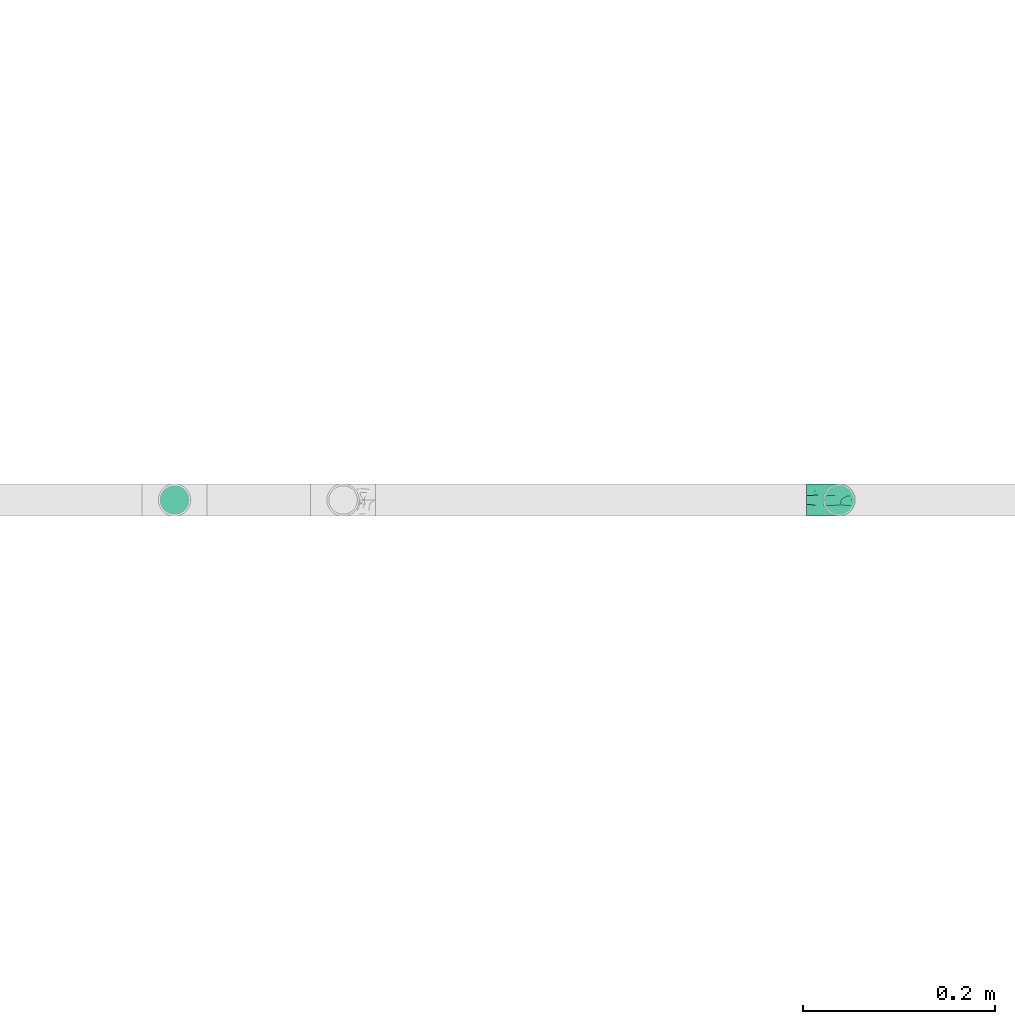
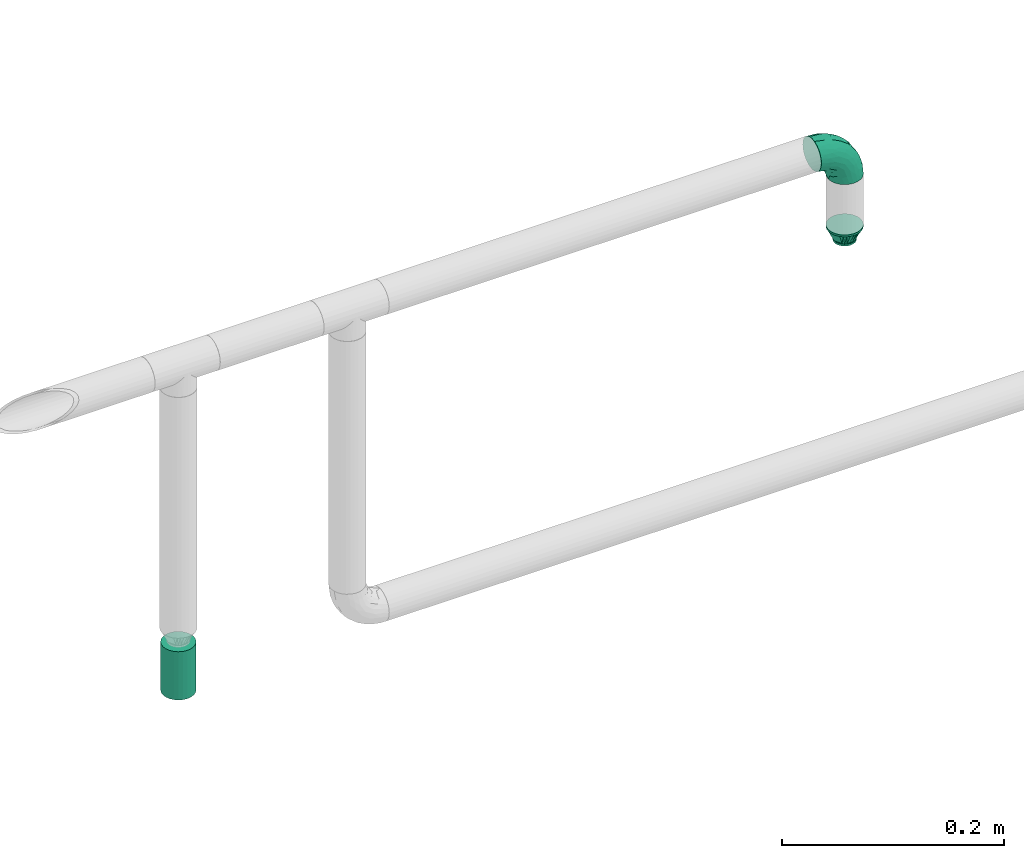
# One storey, part 26 of 45: 2 flow fittings, 1 flow terminal.
"""IFC2X3 building model written with IfcOpenShell, lengths in millimetres."""

from ifc_helpers import new_model, entity, si_unit, converted_unit, derived_unit, direction, frame, origin_with_axes, place, context, subcontext, project, spatial, open_shell, surface_model, source, transform, mapped, type_object, element, save


model = new_model("IFC2X3")

# Units and contexts
model_context = context("Model", 3, precision=0.01, world=frame((0.0, 4.29681676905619e-09, 0.0)), true_north=direction((4.01073788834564e-13, 1.0)))
plan_context = context("Plan", 3, precision=0.01, world=frame((0.0, 4.29681676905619e-09, 0.0)), true_north=direction((4.01073788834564e-13, 1.0)))
body_context = subcontext(model_context, "Body", "Model", "MODEL_VIEW")
ifc_project = project(units=[converted_unit("PLANEANGLEUNIT", "DEGREE", entity("IfcPositiveLengthMeasure", 0.0174532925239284), si_unit("PLANEANGLEUNIT", "RADIAN"), dimensions=[0, 0, 0, 0, 0, 0, 0]), si_unit("AREAUNIT", "SQUARE_METRE"), si_unit("LENGTHUNIT", "METRE", prefix="MILLI"), si_unit("MASSUNIT", "GRAM", prefix="KILO"), si_unit("POWERUNIT", "WATT"), si_unit("PRESSUREUNIT", "PASCAL", prefix="KILO"), si_unit("FORCEUNIT", "NEWTON", prefix="KILO"), si_unit("ELECTRICVOLTAGEUNIT", "VOLT"), si_unit("ELECTRICCURRENTUNIT", "AMPERE"), si_unit("THERMODYNAMICTEMPERATUREUNIT", "DEGREE_CELSIUS"), si_unit("TIMEUNIT", "SECOND"), si_unit("VOLUMEUNIT", "CUBIC_METRE"), derived_unit("LINEARVELOCITYUNIT", [(si_unit("LENGTHUNIT", "METRE"), 1), (si_unit("TIMEUNIT", "SECOND"), -1)]), derived_unit("VOLUMETRICFLOWRATEUNIT", [(si_unit("VOLUMEUNIT", "CUBIC_METRE"), 1), (si_unit("TIMEUNIT", "SECOND"), -1)]), derived_unit("THERMALTRANSMITTANCEUNIT", [(si_unit("POWERUNIT", "WATT"), 1), (si_unit("THERMODYNAMICTEMPERATUREUNIT", "KELVIN"), -1), (si_unit("AREAUNIT", "SQUARE_METRE"), -1)]), derived_unit("SOUNDPRESSUREUNIT", [(si_unit("PRESSUREUNIT", "PASCAL"), 1)])], contexts=[model_context, plan_context])

# Site, building, storey
site_placement = place(None, frame((0.0, -4.29681676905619e-09, 0.0), z_axis=(0.0, 0.0, 1.0), x_axis=(1.0, 0.0, 0.0)))
site = spatial("IfcSite", under=ifc_project, at=site_placement, CompositionType="ELEMENT")
building_placement = place(site_placement, frame((0.0, 4.29681676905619e-09, 0.0), z_axis=(0.0, 0.0, 1.0), x_axis=(1.0, 0.0, 0.0)))
building = spatial("IfcBuilding", under=site, at=building_placement, Name="mc-building", CompositionType="ELEMENT")
storey_placement = place(building_placement, frame((0.0, 0.0, 210200.0), z_axis=(0.0, 0.0, 1.0), x_axis=(1.0, 0.0, 0.0)))
storey = spatial("IfcBuildingStorey", under=building, at=storey_placement, Name="Nivå F - 0,7 m", CompositionType="ELEMENT", Elevation=210200.0)

# Flow fittings
pipe_fitting_type_1 = type_object("IfcPipeFittingType", Name="magi_pipe_fe_elbow_short_001", PredefinedType="BEND")
shared_shape_1 = source(origin_with_axes(), body_context, "Body", "SurfaceModel", [
    surface_model("IfcShellBasedSurfaceModel", [(-33.8, -11.9501, -11.9501), (-33.8, -14.63583, -8.45), (-33.8, -8.45, -14.63583), (-33.8, 0.0, -16.9), (-33.8, -4.37404, -16.32415), (-33.8, -16.32415, -4.37404), (-33.8, -16.9, 0.0), (-33.8, 11.9501, 11.9501), (-33.8, 14.63583, 8.45), (-33.8, 8.45, 14.63583), (-33.8, -11.9501, 11.9501), (-33.8, -8.45, 14.63583), (-33.8, -14.63583, 8.45), (-33.8, -16.32415, 4.37404), (-33.8, -4.37404, 16.32415), (-33.8, 0.0, 16.9), (-33.8, 16.9, 0.0), (-33.8, 16.32415, -4.37404), (-33.8, 16.32415, 4.37404), (-33.8, 4.37404, -16.32415), (-33.8, 8.45, -14.63583), (-33.8, 14.63583, -8.45), (-33.8, 11.9501, -11.9501), (-33.8, 4.37404, 16.32415), (-4.37404, 33.8, -16.32415), (16.9, 33.8, 0.0), (0.0, 33.8, -16.9), (-16.32415, 33.8, -4.37404), (-8.45, 33.8, -14.63583), (-14.63583, 33.8, -8.45), (-11.9501, 33.8, -11.9501), (16.32415, 33.8, 4.37404), (8.45, 33.8, -14.63583), (14.63583, 33.8, -8.45), (11.9501, 33.8, -11.9501), (4.37404, 33.8, -16.32415), (16.32415, 33.8, -4.37404), (-16.32415, 33.8, 4.37404), (-4.37404, 33.8, 16.32415), (-14.63583, 33.8, 8.45), (-8.45, 33.8, 14.63583), (-11.9501, 33.8, 11.9501), (14.63583, 33.8, 8.45), (8.45, 33.8, 14.63583), (11.9501, 33.8, 11.9501), (0.0, 33.8, 16.9), (4.37404, 33.8, 16.32415), (-16.9, 33.8, 0.0), (-24.79389, -13.12945, 9.48721), (-22.19287, -9.75018, 12.59315), (-24.09897, -14.97035, 0.0), (-14.93934, -10.76256, 8.5297), (-22.46095, -14.75051, 5.27077), (14.75051, 22.46094, 5.27077), (11.9251, 13.23888, 4.33236), (13.04069, 14.39795, 0.0), (7.71387, 13.68847, 11.55891), (9.75018, 22.19287, 12.59315), (4.10169, 13.0571, 14.04018), (-24.84007, -6.39063, 15.2048), (-25.81779, -2.23879, 16.61097), (-23.66549, 2.59054, 16.87119), (-26.50418, 14.06512, 11.08152), (-24.21253, 17.66365, 7.72657), (-29.58514, 15.86957, 7.00283), (-6.17382, -7.5455, 0.0), (-13.23888, -11.9251, 4.33236), (-14.39795, -13.04069, 0.0), (-17.81434, 18.87373, 11.97104), (-6.30846, 29.15138, 15.82987), (-2.31622, 25.28002, 16.85849), (-29.23923, 10.23435, 13.77053), (-1.45439, -2.85688, 7.61475), (-0.28326, 0.34872, 10.09509), (-5.74484, -4.04709, 10.4122), (-4.41137, 11.31918, 16.59407), (-8.39727, 3.10034, 15.7812), (-1.72649, 9.1306, 15.53089), (-17.39909, 24.75344, 7.64977), (-26.19233, 20.0512, 0.0), (-28.14518, 17.29657, 4.25857), (-26.05147, 6.6281, 15.96447), (-5.87354, 16.61944, 16.86968), (-12.51807, 12.51807, 16.48937), (-10.06312, 7.38516, 16.81295), (-3.01882, 3.01882, 13.81718), (-13.0571, -4.10169, 14.04018), (-16.82553, -0.15166, 16.38038), (10.76256, 14.93934, 8.5297), (13.12945, 24.79389, 9.48721), (6.39063, 24.84007, 15.2048), (2.23879, 25.81779, 16.61097), (-13.68847, -7.71387, 11.55891), (14.97035, 24.09897, 0.0), (-7.30894, 22.89991, 16.09489), (-10.67958, 26.17414, 14.008), (-12.78295, 18.26924, 15.06066), (-13.88562, 22.45231, 12.93244), (-18.04944, 15.16501, 14.04434), (-23.11658, 20.08178, 4.02986), (-21.84989, 21.84989, 0.0), (-18.55817, 25.48277, 3.93065), (-13.95142, 26.94732, 11.03289), (-18.57098, 7.23906, 16.59756), (-16.58335, 4.14122, 16.89279), (-17.96666, 11.46709, 15.63151), (-9.84453, 17.54304, 16.18938), (0.15166, 16.82553, 16.38038), (-23.27207, 11.47201, 14.23154), (3.84842, 5.86994, 10.70473), (-8.0212, -7.54413, 7.93275), (1.00345, -2.19508, 4.57414), (5.13203, 3.01004, 5.90201), (5.24161, 1.7543, 2.53265), (8.70457, 7.04947, 3.99182), (-20.0512, 26.19233, 0.0), (8.4852, 8.76699, 7.09296), (-4.55488, -6.72064, 4.90681), (2.05031, -2.05031, 0.0), (7.5455, 6.17382, 0.0), (-26.75399, 2.1369, -16.845), (-14.61995, 24.73803, -11.27736), (-28.45274, -13.45335, -9.81895), (-26.00469, 6.63555, -15.96645), (-23.06726, 20.04573, -4.26202), (-13.80647, -4.26506, -14.17873), (-14.67501, -0.21081, -16.07388), (-6.7902, -0.2828, -13.8478), (-24.53586, 11.08096, -14.13417), (-26.72048, 14.00837, -11.05776), (10.0967, 24.44989, -12.75976), (5.83237, 21.40218, -15.03047), (6.66249, 28.54238, -15.38093), (-20.38182, 15.48705, -12.74596), (12.53268, 21.23441, -9.15363), (12.54494, 15.67504, -5.54878), (9.7522, 12.89279, -8.66343), (-15.65186, 19.64213, -13.01327), (-12.03528, 20.66498, -14.67665), (-15.61907, 15.61906, -14.83879), (-25.56551, -15.26206, 0.0), (-24.65452, -15.12934, -5.50955), (13.45335, 28.45274, -9.81895), (15.12934, 24.65452, -5.50955), (-7.35442, -8.31014, -5.65563), (-15.67504, -12.54494, -5.54878), (-24.44989, -10.0967, -12.75976), (0.16522, 0.41303, -9.71728), (-5.70658, -5.33066, -8.89288), (-5.13869, -2.37198, -11.53565), (-21.23441, -12.53268, -9.15363), (0.71146, 7.93863, -14.09382), (0.21081, 14.67501, -16.07388), (3.49291, 14.42772, -14.76381), (-24.89911, -2.13088, -16.591), (-28.54238, -6.66249, -15.38093), (-18.44386, -7.71663, -13.26957), (2.13088, 24.89911, -16.591), (-28.64342, 17.44413, -2.89318), (1.70017, -1.28722, -5.09504), (-16.57067, 26.81947, -7.36596), (-17.69055, 27.4263, -3.76405), (-12.89279, -9.7522, -8.66343), (-5.96611, 5.96611, -15.95814), (-20.53709, 20.09345, -8.28985), (-2.1369, 26.75399, -16.845), (-6.89872, 24.58781, -16.02578), (-10.60739, 26.53157, -13.98044), (-21.40218, -5.83237, -15.03047), (2.93192, 5.89627, -11.55917), (6.89393, 12.61842, -11.82233), (5.58056, 5.95325, -8.79455), (-3.99512, 18.61798, -16.89635), (8.31014, 7.35442, -5.65563), (-9.1383, 9.86148, -16.89041), (-9.99983, 16.02119, -16.39699), (-16.68576, 9.78031, -16.34199), (-27.01915, 16.61158, -7.12979), (15.26206, 25.56551, 0.0), (-18.61798, 3.99512, -16.89635), (-19.37495, 27.82495, 0.0), (-12.61842, -6.89393, -11.82233), (-18.84705, 19.14018, -10.96545)], [open_shell([[[0, 1, 2]], [[3, 4, 2]], [[5, 6, 1]], [[7, 8, 9]], [[10, 11, 12]], [[13, 12, 11]], [[14, 15, 11]], [[16, 17, 18]], [[3, 6, 19]], [[20, 19, 17]], [[20, 17, 21]], [[22, 20, 21]], [[17, 19, 6]], [[2, 1, 6]], [[2, 6, 3]], [[6, 18, 17]], [[23, 18, 6]], [[8, 18, 23]], [[8, 23, 9]], [[13, 23, 6]], [[23, 13, 11]], [[11, 15, 23]], [[24, 25, 26]], [[27, 24, 28]], [[29, 27, 28]], [[29, 28, 30]], [[31, 25, 24]], [[32, 33, 34]], [[32, 35, 26]], [[33, 25, 36]], [[33, 32, 26]], [[25, 33, 26]], [[24, 27, 37]], [[31, 24, 37]], [[38, 37, 39]], [[40, 38, 39]], [[40, 39, 41]], [[31, 37, 38]], [[42, 43, 44]], [[43, 42, 31]], [[43, 45, 46]], [[43, 31, 38]], [[38, 45, 43]], [[37, 27, 47]], [[10, 48, 49]], [[13, 6, 50]], [[51, 48, 52]], [[53, 54, 55]], [[48, 10, 12]], [[13, 52, 12]], [[56, 57, 58]], [[49, 11, 10]], [[49, 59, 11]], [[15, 60, 61]], [[62, 63, 64]], [[65, 66, 67]], [[57, 44, 43]], [[62, 68, 63]], [[38, 69, 70]], [[9, 71, 7]], [[14, 60, 15]], [[72, 73, 74]], [[75, 76, 77]], [[7, 62, 8]], [[39, 37, 78]], [[79, 16, 80]], [[64, 18, 8]], [[15, 61, 23]], [[23, 81, 9]], [[82, 83, 84]], [[74, 85, 86]], [[59, 86, 87]], [[88, 89, 57]], [[90, 43, 46]], [[42, 53, 31]], [[46, 45, 91]], [[54, 53, 88]], [[42, 89, 53]], [[92, 86, 49]], [[89, 42, 44]], [[11, 59, 14]], [[53, 55, 93]], [[93, 31, 53]], [[66, 52, 67]], [[94, 82, 70]], [[95, 96, 94]], [[97, 98, 96]], [[79, 99, 100]], [[40, 41, 95]], [[101, 100, 99]], [[68, 78, 63]], [[38, 40, 69]], [[16, 18, 80]], [[95, 94, 69]], [[78, 101, 99]], [[41, 102, 95]], [[70, 45, 38]], [[97, 95, 102]], [[13, 50, 52]], [[90, 57, 43]], [[57, 90, 58]], [[81, 23, 61]], [[103, 104, 84]], [[105, 81, 103]], [[41, 39, 102]], [[106, 96, 83]], [[94, 106, 82]], [[91, 70, 107]], [[71, 62, 7]], [[62, 108, 98]], [[86, 59, 49]], [[67, 52, 50]], [[60, 59, 87]], [[92, 49, 51]], [[86, 85, 76]], [[91, 90, 46]], [[25, 31, 93]], [[107, 77, 58]], [[107, 58, 90]], [[58, 85, 109]], [[110, 74, 92]], [[72, 74, 110]], [[66, 51, 52]], [[72, 111, 112]], [[113, 114, 112]], [[56, 88, 57]], [[52, 48, 12]], [[49, 48, 51]], [[57, 89, 44]], [[53, 89, 88]], [[103, 81, 61]], [[71, 81, 108]], [[18, 64, 80]], [[63, 78, 99]], [[47, 115, 101]], [[101, 115, 100]], [[39, 78, 102]], [[68, 102, 78]], [[97, 96, 95]], [[105, 98, 108]], [[103, 84, 83]], [[107, 70, 82]], [[76, 84, 87]], [[82, 84, 75]], [[70, 91, 45]], [[90, 91, 107]], [[59, 60, 14]], [[61, 60, 87]], [[73, 85, 74]], [[109, 112, 116]], [[103, 61, 104]], [[105, 103, 83]], [[96, 105, 83]], [[81, 105, 108]], [[96, 98, 105]], [[62, 98, 68]], [[61, 87, 104]], [[87, 84, 104]], [[86, 76, 87]], [[77, 76, 85]], [[58, 77, 85]], [[75, 77, 107]], [[82, 75, 107]], [[76, 75, 84]], [[81, 71, 9]], [[62, 71, 108]], [[95, 69, 40]], [[70, 69, 94]], [[62, 64, 8]], [[80, 63, 99]], [[63, 80, 64]], [[80, 99, 79]], [[66, 65, 117]], [[110, 66, 117]], [[112, 114, 116]], [[118, 117, 65]], [[110, 92, 51]], [[112, 111, 113]], [[119, 55, 54]], [[74, 86, 92]], [[58, 109, 56]], [[116, 56, 109]], [[66, 110, 51]], [[72, 110, 117]], [[111, 72, 117]], [[73, 112, 109]], [[117, 118, 111]], [[113, 111, 118]], [[118, 119, 113]], [[114, 119, 54]], [[119, 114, 113]], [[116, 54, 88]], [[54, 116, 114]], [[116, 88, 56]], [[112, 73, 72]], [[85, 73, 109]], [[78, 37, 101]], [[47, 101, 37]], [[102, 68, 97]], [[97, 68, 98]], [[82, 106, 83]], [[94, 96, 106]], [[19, 120, 3]], [[29, 30, 121]], [[0, 122, 1]], [[20, 123, 19]], [[100, 124, 79]], [[125, 126, 127]], [[128, 22, 129]], [[130, 131, 132]], [[128, 129, 133]], [[134, 135, 136]], [[137, 138, 139]], [[128, 20, 22]], [[67, 140, 141]], [[134, 142, 143]], [[141, 5, 1]], [[144, 65, 145]], [[146, 0, 2]], [[147, 148, 149]], [[145, 141, 150]], [[151, 152, 153]], [[154, 4, 3]], [[2, 155, 146]], [[150, 146, 156]], [[155, 2, 4]], [[143, 135, 134]], [[35, 157, 26]], [[16, 79, 158]], [[148, 159, 144]], [[160, 161, 27]], [[145, 162, 144]], [[163, 152, 151]], [[27, 29, 160]], [[121, 164, 160]], [[32, 34, 130]], [[26, 165, 24]], [[24, 165, 166]], [[142, 34, 33]], [[30, 28, 167]], [[124, 161, 164]], [[157, 35, 132]], [[155, 154, 168]], [[123, 20, 128]], [[169, 170, 171]], [[172, 157, 152]], [[24, 166, 28]], [[132, 35, 32]], [[142, 130, 34]], [[168, 154, 126]], [[136, 135, 173]], [[133, 137, 139]], [[22, 21, 129]], [[170, 131, 130]], [[33, 36, 143]], [[172, 174, 175]], [[176, 123, 128]], [[158, 177, 17]], [[135, 55, 119]], [[167, 28, 166]], [[175, 166, 172]], [[137, 167, 138]], [[122, 141, 1]], [[140, 6, 5]], [[36, 25, 178]], [[170, 130, 134]], [[152, 157, 131]], [[165, 157, 172]], [[153, 170, 151]], [[152, 163, 174]], [[168, 125, 156]], [[122, 146, 150]], [[120, 154, 3]], [[179, 174, 126]], [[179, 126, 154]], [[126, 163, 127]], [[162, 145, 150]], [[140, 5, 141]], [[36, 178, 143]], [[55, 143, 178]], [[177, 129, 21]], [[128, 133, 139]], [[176, 128, 139]], [[120, 123, 179]], [[121, 160, 29]], [[161, 100, 180]], [[166, 175, 138]], [[121, 30, 167]], [[161, 47, 27]], [[79, 124, 158]], [[124, 164, 177]], [[161, 124, 100]], [[136, 171, 170]], [[127, 163, 151]], [[147, 171, 159]], [[148, 144, 162]], [[127, 151, 169]], [[127, 181, 125]], [[129, 177, 164]], [[21, 17, 177]], [[159, 65, 144]], [[67, 141, 145]], [[143, 55, 135]], [[135, 119, 173]], [[123, 120, 19]], [[154, 120, 179]], [[157, 165, 26]], [[166, 165, 172]], [[172, 152, 174]], [[176, 139, 175]], [[126, 174, 163]], [[176, 174, 179]], [[174, 176, 175]], [[123, 176, 179]], [[150, 181, 162]], [[127, 149, 181]], [[181, 148, 162]], [[159, 148, 147]], [[171, 136, 173]], [[170, 134, 136]], [[159, 171, 173]], [[171, 147, 169]], [[169, 147, 149]], [[151, 170, 169]], [[164, 182, 129]], [[182, 121, 137]], [[181, 149, 148]], [[169, 149, 127]], [[182, 137, 133]], [[167, 137, 121]], [[166, 138, 167]], [[175, 139, 138]], [[129, 182, 133]], [[121, 182, 164]], [[161, 160, 164]], [[47, 161, 180]], [[177, 158, 124]], [[16, 158, 17]], [[130, 132, 32]], [[157, 132, 131]], [[143, 142, 33]], [[130, 142, 134]], [[154, 155, 4]], [[146, 155, 168]], [[146, 122, 0]], [[141, 122, 150]], [[152, 131, 153]], [[159, 119, 118]], [[67, 145, 65]], [[170, 153, 131]], [[119, 159, 173]], [[159, 118, 65]], [[156, 125, 181]], [[126, 125, 168]], [[150, 156, 181]], [[168, 156, 146]]])]),
])
flow_fitting_1_placement = place(storey_placement, frame((333219.17326, 466128.25463, 3316.68979999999), z_axis=(0.0, 1.0, 0.0), x_axis=(1.0, 0.0, 0.0)))
element("IfcFlowFitting", 1, at=flow_fitting_1_placement, inside=storey, type_object=pipe_fitting_type_1, Name="magi_pipe_fe_elbow_short_001", context=body_context, shape_type="MappedRepresentation", body=[
    mapped(shared_shape_1, transform((0.0, 0.0, 0.0), scale=1.0)),
])
pipe_fitting_type_2 = type_object("IfcPipeFittingType", Name="magi_pipe_fe_reducer_centric_short_001", PredefinedType="TRANSITION")
shared_shape_2 = source(origin_with_axes(), body_context, "Body", "SurfaceModel", [
    surface_model("IfcShellBasedSurfaceModel", [(-2.0, 11.9501, 11.9501), (-2.0, 0.0, 16.9), (-2.0, 4.37404, 16.32415), (-2.0, 8.45, 14.63583), (-2.0, 14.63583, 8.45), (-2.0, 16.32415, 4.37404), (-2.0, -16.32415, 4.37404), (-2.0, -8.45, 14.63583), (-2.0, -14.63583, 8.45), (-2.0, -11.9501, 11.9501), (-2.0, -4.37404, 16.32415), (-2.0, -16.32415, -4.37404), (-2.0, -16.9, 0.0), (-2.0, -8.45, -14.63583), (-2.0, 16.32415, -4.37404), (-2.0, 11.9501, -11.9501), (-2.0, 14.63583, -8.45), (-2.0, 8.45, -14.63583), (-2.0, 4.37404, -16.32415), (-2.0, 0.0, -16.9), (-2.0, -11.9501, -11.9501), (-2.0, -14.63583, -8.45), (-2.0, -4.37404, -16.32415), (-2.0, 16.9, 0.0), (0.0, 4.37404, -16.32415), (0.0, 8.45, -14.63583), (0.0, 11.9501, -11.9501), (0.0, 0.0, -16.9), (0.0, 16.32415, -4.37404), (0.0, 16.32415, 4.37404), (0.0, 14.63583, -8.45), (0.0, -8.45, -14.63583), (0.0, -4.37404, -16.32415), (0.0, -11.9501, -11.9501), (0.0, -16.32415, -4.37404), (0.0, -14.63583, -8.45), (0.0, -16.32415, 4.37404), (0.0, 16.9, 0.0), (0.0, 14.63583, 8.45), (0.0, 11.9501, 11.9501), (0.0, 4.37404, 16.32415), (0.0, 8.45, 14.63583), (0.0, 0.0, 16.9), (0.0, -14.63583, 8.45), (0.0, -16.9, 0.0), (0.0, -8.45, 14.63583), (0.0, -11.9501, 11.9501), (0.0, -4.37404, 16.32415), (14.4, 5.35, -9.26647), (14.4, 0.0, -10.7), (14.4, 2.76936, -10.33541), (14.4, 10.33541, -2.76936), (14.4, 7.56604, -7.56604), (14.4, -5.35, -9.26647), (14.4, 9.26647, -5.35), (14.4, -9.26647, 5.35), (14.4, -2.76936, -10.33541), (14.4, -7.56604, -7.56604), (14.4, -10.33541, -2.76936), (14.4, -9.26647, -5.35), (14.4, 10.33541, 2.76936), (14.4, 10.7, 0.0), (14.4, 9.26647, 5.35), (14.4, 7.56604, 7.56604), (14.4, 2.76936, 10.33541), (14.4, 0.0, 10.7), (14.4, 5.35, 9.26647), (14.4, -10.33541, 2.76936), (14.4, -10.7, 0.0), (14.4, -7.56604, 7.56604), (14.4, -2.76936, 10.33541), (14.4, -5.35, 9.26647), (12.4, 0.0, 10.7), (12.4, 2.76936, 10.33541), (12.4, 5.35, 9.26647), (12.4, 7.56604, 7.56604), (12.4, 9.26647, 5.35), (12.4, 10.33541, 2.76936), (12.4, -10.33541, 2.76936), (12.4, 10.33541, -2.76936), (12.4, -2.76936, 10.33541), (12.4, -7.56604, 7.56604), (12.4, -5.35, 9.26647), (12.4, -9.26647, 5.35), (12.4, -10.33541, -2.76936), (12.4, -10.7, 0.0), (12.4, 2.76936, -10.33541), (12.4, 9.26647, -5.35), (12.4, 7.56604, -7.56604), (12.4, 5.35, -9.26647), (12.4, -7.56604, -7.56604), (12.4, -9.26647, -5.35), (12.4, -5.35, -9.26647), (12.4, 0.0, -10.7), (12.4, -2.76936, -10.33541), (12.4, 10.7, 0.0), (12.4, 9.3625, -2.31662), (0.0, 14.42505, -5.97505), (0.0, 15.66253, -2.98753), (12.4, -6.6875, -6.94985), (0.0, -13.18758, -8.96258), (0.0, 2.98753, -15.66253), (12.4, 0.0, -9.26647), (12.4, 6.6875, -6.94985), (0.0, 8.96258, -13.18758), (12.4, -9.3625, -2.31662), (0.0, -15.66253, -2.98753), (0.0, -14.42505, -5.97505), (0.0, 5.97505, -14.42505), (0.0, -2.98753, -15.66253), (0.0, -8.96258, -13.18758), (0.0, 13.18758, -8.96258), (12.4, 8.025, -4.63324), (12.4, -2.675, -9.26647), (12.4, 2.675, -9.26647), (0.0, -5.97505, -14.42505), (12.4, -8.025, -4.63324), (12.4, -9.3625, 2.31662), (0.0, -14.42505, 5.97505), (0.0, -15.66253, 2.98753), (12.4, 6.6875, 6.94985), (0.0, 13.18758, 8.96258), (0.0, -2.98753, 15.66253), (12.4, 0.0, 9.26647), (12.4, -6.6875, 6.94985), (0.0, -8.96258, 13.18758), (12.4, 9.3625, 2.31662), (0.0, 15.66253, 2.98753), (0.0, 14.42505, 5.97505), (0.0, -5.97505, 14.42505), (0.0, 2.98753, 15.66253), (0.0, 8.96258, 13.18758), (0.0, -13.18758, 8.96258), (12.4, -8.025, 4.63324), (12.4, 2.675, 9.26647), (12.4, -2.675, 9.26647), (0.0, 5.97505, 14.42505), (12.4, 8.025, 4.63324)], [open_shell([[[0, 1, 2]], [[0, 2, 3]], [[0, 4, 5]], [[0, 5, 1]], [[1, 5, 6]], [[7, 8, 9]], [[7, 10, 1]], [[8, 7, 1]], [[1, 6, 8]], [[6, 11, 12]], [[6, 5, 13]], [[5, 14, 15]], [[15, 14, 16]], [[15, 17, 18]], [[13, 5, 15]], [[19, 15, 18]], [[11, 20, 21]], [[20, 11, 13]], [[13, 19, 22]], [[11, 6, 13]], [[15, 19, 13]], [[5, 23, 14]], [[24, 25, 26]], [[27, 24, 26]], [[26, 28, 29]], [[28, 26, 30]], [[26, 29, 31]], [[27, 31, 32]], [[27, 26, 31]], [[33, 34, 35]], [[34, 33, 31]], [[31, 36, 34]], [[29, 28, 37]], [[29, 38, 39]], [[29, 39, 40]], [[40, 36, 31]], [[40, 39, 41]], [[36, 40, 42]], [[42, 43, 36]], [[44, 34, 36]], [[43, 45, 46]], [[43, 42, 45]], [[45, 42, 47]], [[31, 29, 40]], [[11, 34, 12]], [[21, 35, 11]], [[31, 20, 13]], [[21, 20, 33]], [[32, 13, 22]], [[11, 35, 34]], [[34, 44, 12]], [[32, 31, 13]], [[33, 20, 31]], [[33, 35, 21]], [[27, 32, 22]], [[22, 19, 27]], [[18, 24, 19]], [[17, 25, 18]], [[30, 15, 16]], [[17, 15, 26]], [[28, 16, 14]], [[17, 26, 25]], [[25, 24, 18]], [[37, 28, 14]], [[30, 16, 28]], [[30, 26, 15]], [[23, 37, 14]], [[19, 24, 27]], [[5, 29, 23]], [[4, 38, 5]], [[41, 0, 3]], [[4, 0, 39]], [[40, 3, 2]], [[5, 38, 29]], [[29, 37, 23]], [[40, 41, 3]], [[39, 0, 41]], [[39, 38, 4]], [[42, 40, 2]], [[2, 1, 42]], [[10, 47, 1]], [[7, 45, 10]], [[43, 9, 8]], [[7, 9, 46]], [[36, 8, 6]], [[7, 46, 45]], [[45, 47, 10]], [[44, 36, 6]], [[43, 8, 36]], [[43, 46, 9]], [[12, 44, 6]], [[1, 47, 42]], [[33, 44, 27]], [[48, 49, 50]], [[51, 48, 52]], [[53, 48, 51]], [[51, 52, 54]], [[55, 53, 51]], [[49, 53, 56]], [[49, 48, 53]], [[57, 58, 59]], [[58, 57, 53]], [[53, 55, 58]], [[60, 51, 61]], [[60, 62, 63]], [[51, 63, 55]], [[64, 65, 63]], [[64, 63, 66]], [[55, 63, 65]], [[58, 67, 68]], [[55, 67, 58]], [[69, 70, 71]], [[70, 69, 55]], [[65, 70, 55]], [[51, 60, 63]], [[72, 73, 74]], [[72, 74, 75]], [[75, 76, 77]], [[72, 75, 78]], [[79, 78, 75]], [[80, 81, 82]], [[81, 80, 78]], [[81, 78, 83]], [[80, 72, 78]], [[78, 84, 85]], [[79, 75, 77]], [[84, 78, 79]], [[86, 79, 87]], [[88, 89, 86]], [[88, 86, 87]], [[84, 79, 86]], [[84, 90, 91]], [[90, 84, 92]], [[92, 93, 94]], [[92, 84, 86]], [[86, 93, 92]], [[79, 77, 95]], [[84, 58, 85]], [[91, 59, 84]], [[53, 90, 92]], [[91, 90, 57]], [[56, 92, 94]], [[84, 59, 58]], [[58, 68, 85]], [[56, 53, 92]], [[57, 90, 53]], [[57, 59, 91]], [[49, 56, 94]], [[94, 93, 49]], [[86, 50, 93]], [[89, 48, 86]], [[54, 88, 87]], [[89, 88, 52]], [[51, 87, 79]], [[89, 52, 48]], [[48, 50, 86]], [[61, 51, 79]], [[54, 87, 51]], [[54, 52, 88]], [[95, 61, 79]], [[93, 50, 49]], [[77, 60, 95]], [[76, 62, 77]], [[66, 75, 74]], [[76, 75, 63]], [[64, 74, 73]], [[77, 62, 60]], [[60, 61, 95]], [[64, 66, 74]], [[63, 75, 66]], [[63, 62, 76]], [[65, 64, 73]], [[73, 72, 65]], [[80, 70, 72]], [[82, 71, 80]], [[55, 81, 83]], [[82, 81, 69]], [[67, 83, 78]], [[82, 69, 71]], [[71, 70, 80]], [[68, 67, 78]], [[55, 83, 67]], [[55, 69, 81]], [[85, 68, 78]], [[72, 70, 65]], [[74, 82, 95]], [[95, 82, 92]], [[92, 89, 95]], [[92, 82, 85]], [[42, 39, 44]], [[44, 46, 42]], [[39, 26, 44]], [[27, 44, 26]], [[26, 39, 37]], [[96, 97, 98]], [[33, 99, 100]], [[101, 102, 27]], [[98, 37, 95]], [[26, 103, 104]], [[104, 103, 89]], [[105, 106, 107]], [[89, 108, 104]], [[102, 109, 27]], [[110, 99, 33]], [[95, 96, 98]], [[103, 111, 112]], [[109, 102, 113]], [[85, 44, 106]], [[102, 101, 114]], [[110, 115, 92]], [[96, 112, 97]], [[107, 116, 105]], [[85, 106, 105]], [[113, 115, 109]], [[92, 115, 113]], [[116, 107, 100]], [[108, 89, 114]], [[111, 103, 26]], [[111, 97, 112]], [[99, 110, 92]], [[116, 100, 99]], [[101, 108, 114]], [[117, 118, 119]], [[39, 120, 121]], [[122, 123, 42]], [[119, 44, 85]], [[46, 124, 125]], [[125, 124, 82]], [[126, 127, 128]], [[82, 129, 125]], [[123, 130, 42]], [[131, 120, 39]], [[85, 117, 119]], [[124, 132, 133]], [[130, 123, 134]], [[95, 37, 127]], [[123, 122, 135]], [[131, 136, 74]], [[117, 133, 118]], [[128, 137, 126]], [[95, 127, 126]], [[134, 136, 130]], [[74, 136, 134]], [[137, 128, 121]], [[129, 82, 135]], [[132, 124, 46]], [[132, 118, 133]], [[120, 131, 74]], [[137, 121, 120]], [[122, 129, 135]]])]),
])
flow_fitting_2_placement = place(storey_placement, frame((333219.17326, 466128.25463, 3225.448), z_axis=(0.0, -1.0, 0.0), x_axis=(0.0, 0.0, -1.0)))
element("IfcFlowFitting", 2, at=flow_fitting_2_placement, inside=storey, type_object=pipe_fitting_type_2, Name="magi_pipe_fe_reducer_centric_short_001", context=body_context, shape_type="MappedRepresentation", body=[
    mapped(shared_shape_2, transform((0.0, 0.0, 0.0), scale=1.0)),
])

# Flow terminal
fire_suppression_terminal_type = type_object("IfcFireSuppressionTerminalType", Name="SP-15-K80-68DGR-STD", PredefinedType="NOTDEFINED")
shared_shape_3 = source(origin_with_axes(), body_context, "Body", "SurfaceModel", [
    surface_model("IfcShellBasedSurfaceModel", [(4.1411, -15.45481, 53.0), (8.0, -13.85641, 53.0), (11.31371, -11.31371, 53.0), (-8.0, -13.85641, 53.0), (15.45481, -4.1411, 53.0), (16.0, 0.0, 53.0), (13.85641, -8.0, 53.0), (0.0, -16.0, 53.0), (-4.1411, -15.45481, 53.0), (-13.85641, -8.0, 53.0), (-11.31371, -11.31371, 53.0), (-15.45481, -4.1411, 53.0), (15.45481, 4.1411, 53.0), (13.85641, 8.0, 53.0), (11.31371, 11.31371, 53.0), (-4.1411, 15.45481, 53.0), (8.0, 13.85641, 53.0), (4.1411, 15.45481, 53.0), (0.0, 16.0, 53.0), (-13.85641, 8.0, 53.0), (-15.45481, 4.1411, 53.0), (-16.0, 0.0, 53.0), (-11.31371, 11.31371, 53.0), (-8.0, 13.85641, 53.0), (0.0, 16.0, 0.0), (4.1411, 15.45481, 0.0), (8.0, 13.85641, 0.0), (-4.1411, 15.45481, 0.0), (11.31371, 11.31371, 0.0), (13.85641, 8.0, 0.0), (15.45481, 4.1411, 0.0), (-15.45481, -4.1411, 0.0), (-11.31371, 11.31371, 0.0), (-8.0, 13.85641, 0.0), (-13.85641, 8.0, 0.0), (-15.45481, 4.1411, 0.0), (-16.0, 0.0, 0.0), (4.1411, -15.45481, 0.0), (16.0, 0.0, 0.0), (15.45481, -4.1411, 0.0), (13.85641, -8.0, 0.0), (11.31371, -11.31371, 0.0), (8.0, -13.85641, 0.0), (-8.0, -13.85641, 0.0), (-13.85641, -8.0, 0.0), (-11.31371, -11.31371, 0.0), (0.0, -16.0, 0.0), (-4.1411, -15.45481, 0.0)], [open_shell([[[0, 1, 2]], [[3, 0, 2]], [[4, 5, 2]], [[4, 2, 6]], [[3, 2, 5]], [[7, 3, 8]], [[7, 0, 3]], [[3, 9, 10]], [[9, 3, 11]], [[5, 11, 3]], [[5, 12, 11]], [[12, 13, 14]], [[15, 12, 14]], [[16, 17, 18]], [[14, 16, 15]], [[18, 15, 16]], [[11, 19, 20]], [[21, 11, 20]], [[22, 15, 23]], [[15, 22, 19]], [[19, 11, 15]], [[11, 12, 15]], [[24, 25, 26]], [[27, 24, 26]], [[28, 29, 30]], [[27, 26, 28]], [[27, 28, 31]], [[27, 32, 33]], [[32, 27, 34]], [[34, 31, 35]], [[31, 34, 27]], [[35, 31, 36]], [[28, 30, 31]], [[37, 38, 39]], [[37, 39, 40]], [[41, 42, 37]], [[41, 37, 40]], [[38, 37, 43]], [[44, 43, 45]], [[43, 44, 31]], [[43, 46, 47]], [[43, 31, 38]], [[37, 46, 43]], [[38, 31, 30]], [[11, 31, 44]], [[45, 9, 44]], [[3, 43, 47]], [[45, 43, 10]], [[8, 47, 46]], [[31, 21, 36]], [[31, 11, 21]], [[44, 9, 11]], [[45, 10, 9]], [[3, 10, 43]], [[47, 8, 3]], [[46, 7, 8]], [[0, 37, 42]], [[41, 1, 42]], [[6, 40, 39]], [[41, 40, 2]], [[4, 39, 38]], [[37, 0, 7]], [[42, 1, 0]], [[41, 2, 1]], [[40, 6, 2]], [[4, 6, 39]], [[38, 5, 4]], [[37, 7, 46]], [[12, 38, 30]], [[13, 30, 29]], [[16, 26, 25]], [[17, 25, 24]], [[30, 13, 12]], [[12, 5, 38]], [[28, 14, 13]], [[28, 26, 14]], [[14, 26, 16]], [[25, 17, 16]], [[28, 13, 29]], [[24, 18, 17]], [[15, 27, 33]], [[32, 23, 33]], [[19, 34, 35]], [[32, 34, 22]], [[20, 35, 36]], [[27, 15, 18]], [[33, 23, 15]], [[32, 22, 23]], [[34, 19, 22]], [[20, 19, 35]], [[36, 21, 20]], [[27, 18, 24]]])]),
])
flow_terminal_placement = place(storey_placement, frame((332527.06484, 466128.25463, 3011.5411), z_axis=(0.0, 0.0, -1.0), x_axis=(-1.0, 0.0, 0.0)))
element("IfcFlowTerminal", 3, at=flow_terminal_placement, inside=storey, type_object=fire_suppression_terminal_type, Name="SP-15-K80-68DGR-STD", context=body_context, shape_type="MappedRepresentation", body=[
    mapped(shared_shape_3, transform((0.0, 0.0, 0.0), scale=1.0)),
])

save(model, "model.ifc")
